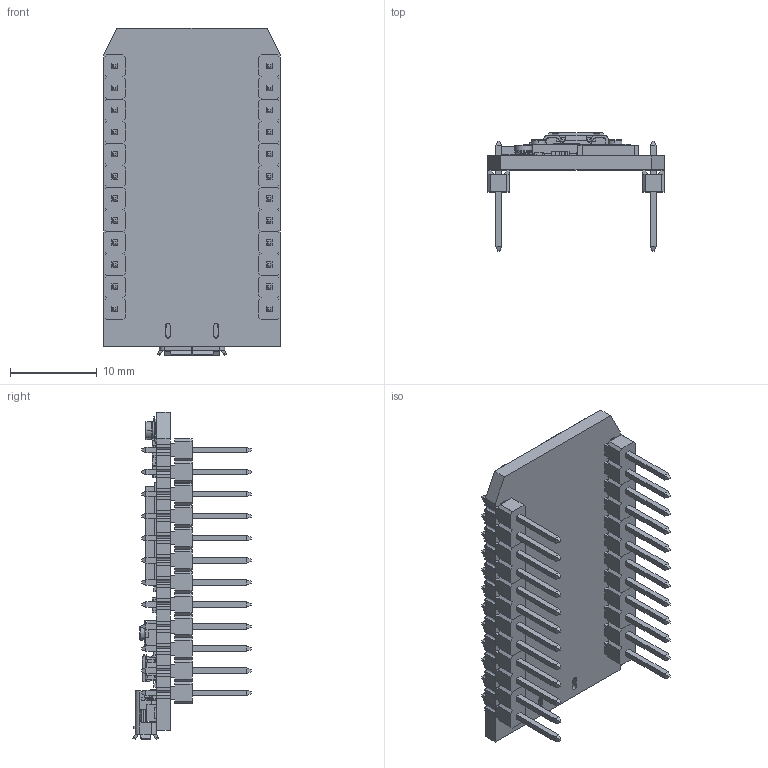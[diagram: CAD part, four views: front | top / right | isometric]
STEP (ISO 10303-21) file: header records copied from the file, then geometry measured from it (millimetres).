
FILE_DESCRIPTION (( 'STEP AP214' ), '1' );
FILE_NAME ('Basic.STEP', '2016-02-16T00:23:45', ( '' ), ( '' ), 'SwSTEP 2.0', 'SolidWorks 2015', '' );
FILE_SCHEMA (( 'AUTOMOTIVE_DESIGN' ));
Length unit declared in the file: inch
Products named in the file (20): ob1_ob3; ob1_ob2purp; 33m52; ob1_ob2; SMDButton; singleled; 961102-6804-XX; ob1; smddiode_ob2; 475890001; Antenna; CLVBA-FKA; Box; Board; IC; PhotonChip; RECE.20279; IC2; Basic; ob1_ob2white
Assembly tree (43 placements, depth 2):
  Basic
    Board
    961102-6804-XX  x2
    475890001
    RECE.20279
    CLVBA-FKA
    SMDButton  x2
    PhotonChip
    IC
    Box
    33m52
    Antenna
    ob1  x6
    ob1_ob2  x6
    ob1_ob2purp  x2
    ob1_ob2white  x3
    smddiode_ob2  x8
    ob1_ob3  x3
    IC2
    singleled
Bounding box: 20.37 x 13.61 x 37.65 mm (x, y, z)
Volume: 1844 mm3; surface area: 4188.3 mm2
Topology: 133 solids, 133 shells, 3227 faces, 8180 edges, 5278 vertices
Faces by surface type: plane 2453, cylinder 649, bspline 94, torus 17, cone 12, sphere 2
Entity records: 92544 total; most frequent: CARTESIAN_POINT 14900, ORIENTED_EDGE 12092, DIRECTION 11639, EDGE_CURVE 6046, VECTOR 4561, LINE 4561, VERTEX_POINT 3892, AXIS2_PLACEMENT_3D 3539
